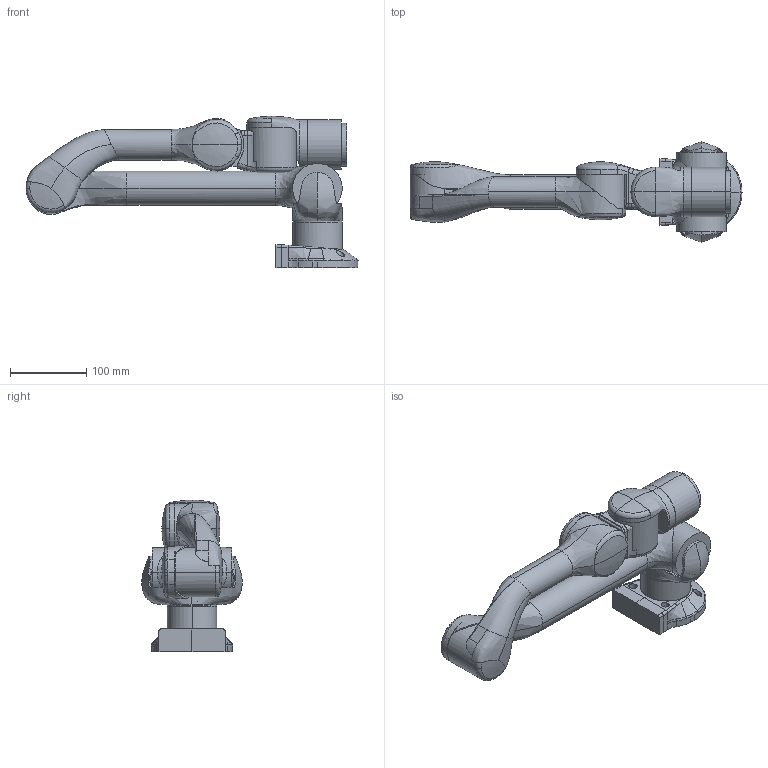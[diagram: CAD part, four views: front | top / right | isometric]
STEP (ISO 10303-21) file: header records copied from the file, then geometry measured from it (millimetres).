
FILE_DESCRIPTION (( 'STEP AP214' ), '1' );
FILE_NAME ('UArm-V3.6-01-simplified-without gripper.STEP', '2022-06-06T08:07:17', ( '' ), ( '' ), 'SwSTEP 2.0', 'SolidWorks 2018', '' );
FILE_SCHEMA (( 'AUTOMOTIVE_DESIGN' ));
Length unit declared in the file: millimetre
Products named in the file (8): UArm-V3.6-01-End joint-simplified; UArm-V3.6-01-Wrist-front-simplified; UArm-V3.6-01-Wrist-back-simplified; UArm-V3.6-01-Main arm-simplified; UArm-V3.6-01-simplified-without gripper; UArm-V3.6-01-Shoulder-simplified; UArm-V3.6-4-Base-simplified; UArm-V3.6-01-Secondary arm-simplified
Assembly tree (7 placements, depth 2):
  UArm-V3.6-01-simplified-without gripper
    UArm-V3.6-4-Base-simplified
    UArm-V3.6-01-Shoulder-simplified
    UArm-V3.6-01-Main arm-simplified
    UArm-V3.6-01-Secondary arm-simplified
    UArm-V3.6-01-Wrist-back-simplified
    UArm-V3.6-01-Wrist-front-simplified
    UArm-V3.6-01-End joint-simplified
Bounding box: 435.75 x 131.84 x 199 mm (x, y, z)
Volume: 2437848.1 mm3; surface area: 278903.6 mm2
Topology: 7 solids, 7 shells, 323 faces, 845 edges, 539 vertices
Faces by surface type: bspline 154, cylinder 89, plane 60, torus 18, sphere 2
Entity records: 87806 total; most frequent: CARTESIAN_POINT 79760, ORIENTED_EDGE 1672, DIRECTION 872, EDGE_CURVE 836, VERTEX_POINT 539, B_SPLINE_CURVE_WITH_KNOTS 508, AXIS2_PLACEMENT_3D 374, EDGE_LOOP 345
